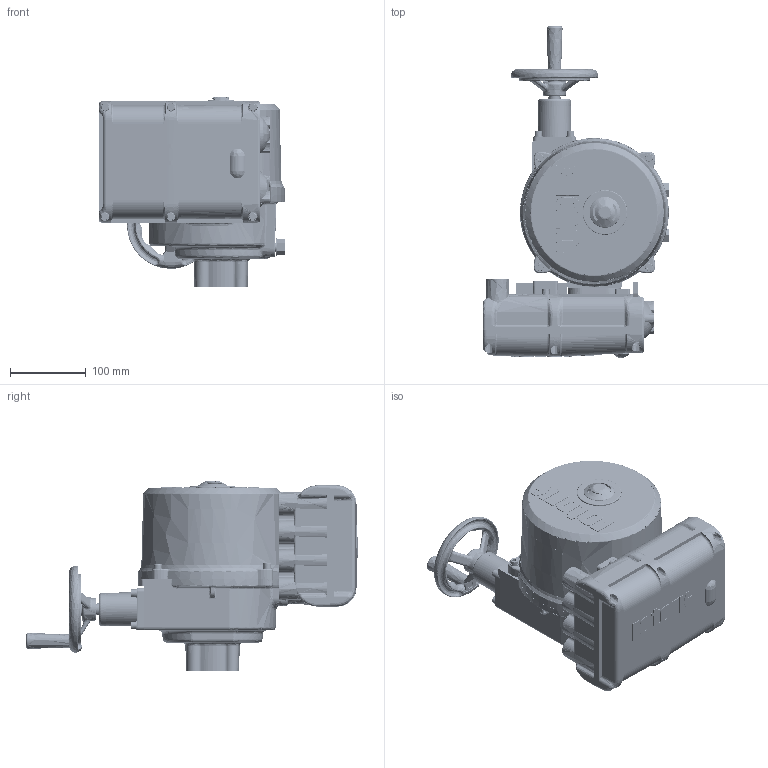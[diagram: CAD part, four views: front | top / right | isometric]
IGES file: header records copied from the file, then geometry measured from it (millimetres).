
Start section: C
Global section: file name: ROMpak Sizes 2&3 short cover-2.igs; native system: By Siemens PLM Incorporated; preprocessor: XPlus GENERIC/IGES 17.0.49; author: Author; organization: Title; date: 20150909.103237; units: millimetre
Bounding box: 245.6 x 437.96 x 251.7 mm (x, y, z)
Surface area: 529063.1 mm2 (no closed solid volume)
Topology: 0 solids, 0 shells, 2599 faces, 14663 edges, 14578 vertices
Faces by surface type: bspline 2599
